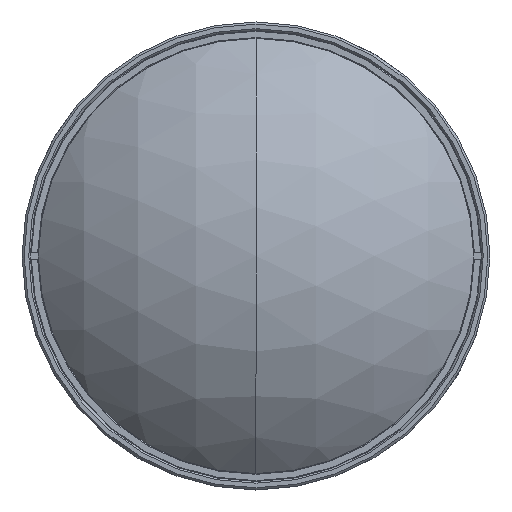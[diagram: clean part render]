
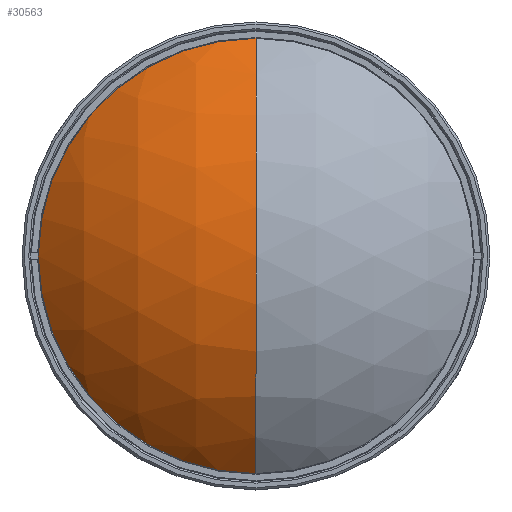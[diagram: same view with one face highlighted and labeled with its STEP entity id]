
A CAD part, top view. The second image highlights one B-rep face of the part: STEP entity #30563.
In plain terms, the highlighted spherical face has radius 42.287 mm.
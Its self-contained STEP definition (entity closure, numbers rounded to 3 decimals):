
#1381 = CARTESIAN_POINT ( 'NONE',  ( 0., 0., 39.514 ) ) ;
#2730 = CARTESIAN_POINT ( 'NONE',  ( 0., -30.7, 39.514 ) ) ;
#3444 = CARTESIAN_POINT ( 'NONE',  ( 0., 0., 39.514 ) ) ;
#4155 = AXIS2_PLACEMENT_3D ( 'NONE', #1381, #65593, #66281 ) ;
#5151 = VERTEX_POINT ( 'NONE', #63389 ) ;
#5503 = DIRECTION ( 'NONE',  ( 1., 0., 0. ) ) ;
#8036 = DIRECTION ( 'NONE',  ( 0., 0., 1. ) ) ;
#8903 = EDGE_CURVE ( 'NONE', #17846, #5151, #20413, .T. ) ;
#10731 = AXIS2_PLACEMENT_3D ( 'NONE', #3444, #8036, #39620 ) ;
#15904 = ORIENTED_EDGE ( 'NONE', *, *, #8903, .F. ) ;
#17846 = VERTEX_POINT ( 'NONE', #33545 ) ;
#19225 = ORIENTED_EDGE ( 'NONE', *, *, #58842, .T. ) ;
#19746 = AXIS2_PLACEMENT_3D ( 'NONE', #66672, #40346, #51260 ) ;
#20413 = CIRCLE ( 'NONE', #59639, 42.287 ) ;
#22581 = DIRECTION ( 'NONE',  ( -1., 0., 0. ) ) ;
#23336 = VERTEX_POINT ( 'NONE', #2730 ) ;
#26675 = EDGE_CURVE ( 'NONE', #57696, #23336, #38698, .T. ) ;
#26916 = DIRECTION ( 'NONE',  ( 0., 0., -1. ) ) ;
#27523 = SPHERICAL_SURFACE ( 'NONE', #48421, 42.287 ) ;
#30563 = ADVANCED_FACE ( 'NONE', ( #37711 ), #27523, .T. ) ;
#33545 = CARTESIAN_POINT ( 'NONE',  ( 0., 30.7, 39.514 ) ) ;
#34432 = CIRCLE ( 'NONE', #4155, 30.7 ) ;
#34766 = ORIENTED_EDGE ( 'NONE', *, *, #26675, .T. ) ;
#36739 = ORIENTED_EDGE ( 'NONE', *, *, #43068, .T. ) ;
#37711 = FACE_OUTER_BOUND ( 'NONE', #49199, .T. ) ;
#38698 = CIRCLE ( 'NONE', #10731, 30.7 ) ;
#39620 = DIRECTION ( 'NONE',  ( -1., 0., 0. ) ) ;
#40346 = DIRECTION ( 'NONE',  ( -1., 0., 0. ) ) ;
#43068 = EDGE_CURVE ( 'NONE', #17846, #57696, #34432, .T. ) ;
#43647 = DIRECTION ( 'NONE',  ( 0., 1., 0. ) ) ;
#48421 = AXIS2_PLACEMENT_3D ( 'NONE', #54887, #22581, #43647 ) ;
#48742 = CARTESIAN_POINT ( 'NONE',  ( -30.7, 0., 39.514 ) ) ;
#49199 = EDGE_LOOP ( 'NONE', ( #34766, #19225, #15904, #36739 ) ) ;
#50034 = CIRCLE ( 'NONE', #19746, 42.287 ) ;
#51260 = DIRECTION ( 'NONE',  ( 0., -1., 0. ) ) ;
#54887 = CARTESIAN_POINT ( 'NONE',  ( 0., 0., 10.433 ) ) ;
#57696 = VERTEX_POINT ( 'NONE', #48742 ) ;
#58842 = EDGE_CURVE ( 'NONE', #23336, #5151, #50034, .T. ) ;
#59639 = AXIS2_PLACEMENT_3D ( 'NONE', #62446, #5503, #26916 ) ;
#62446 = CARTESIAN_POINT ( 'NONE',  ( 0., 0., 10.433 ) ) ;
#63389 = CARTESIAN_POINT ( 'NONE',  ( 0., 0., 52.72 ) ) ;
#65593 = DIRECTION ( 'NONE',  ( 0., 0., 1. ) ) ;
#66281 = DIRECTION ( 'NONE',  ( -1., 0., 0. ) ) ;
#66672 = CARTESIAN_POINT ( 'NONE',  ( 0., 0., 10.433 ) ) ;
